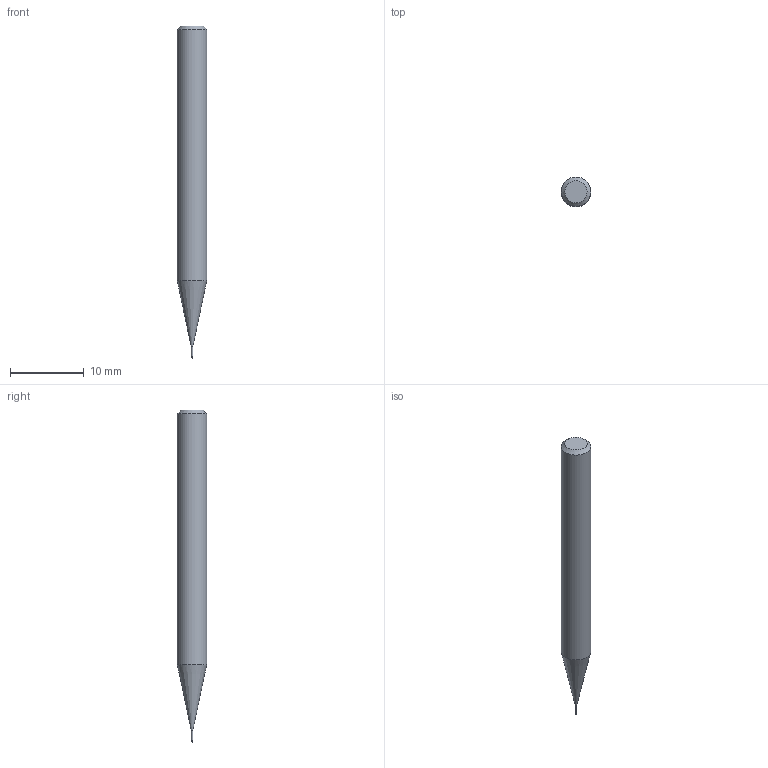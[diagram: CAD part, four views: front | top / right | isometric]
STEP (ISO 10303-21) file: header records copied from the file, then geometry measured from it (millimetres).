
FILE_DESCRIPTION((''),'2;1');
FILE_NAME('C:\Users\nsx150\AppData\Local\Temp\Mastercam 2021\AP8FW4WOPM\TEMP.step','2024-10-16T18:39:47',(''),(''),'STEP Write','Mastercam 2021 ... CNC Software, Inc.','');
FILE_SCHEMA(('AUTOMOTIVE_DESIGN'));
Length unit declared in the file: millimetre
Products named in the file (1): None
Bounding box: 4 x 4 x 45 mm (x, y, z)
Volume: 471.7 mm3; surface area: 503.5 mm2
Topology: 2 solids, 2 shells, 9 faces, 14 edges, 8 vertices
Faces by surface type: plane 3, cylinder 3, cone 2, sphere 1
Full cylindrical faces by diameter (mm): 0.18 x1, 0.2 x1, 4 x1
Entity records: 211 total; most frequent: DIRECTION 36, CARTESIAN_POINT 25, AXIS2_PLACEMENT_3D 18, ORIENTED_EDGE 14, EDGE_LOOP 14, STYLED_ITEM 12, ADVANCED_FACE 9, FACE_BOUND 8
